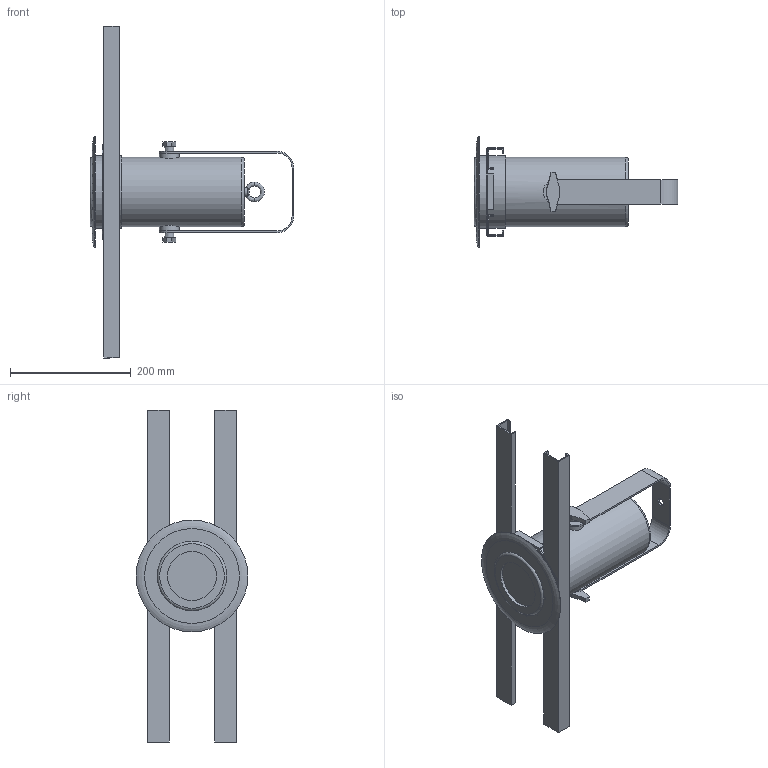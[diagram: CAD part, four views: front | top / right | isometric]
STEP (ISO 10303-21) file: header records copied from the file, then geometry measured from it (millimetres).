
FILE_DESCRIPTION(/* description */ (''),/* implementation_level */ '2;1');
FILE_NAME(/* name */ 'D:/dgooch/Documents/CADENG/PRO/Ovation H-55WW/0/3D/Ovation H-55WW_W_Install_Bracket_0.step',/* time_stamp */ '2019-11-13T10:13:38-05:00',/* author */ (''),/* organization */ (''),/* preprocessor_version */ 'ST-DEVELOPER v18',/* originating_system */ 'Autodesk Translation Framework v8.12.0.6',/* authorisation */ '');
FILE_SCHEMA (('AUTOMOTIVE_DESIGN { 1 0 10303 214 3 1 1 }'));
Length unit declared in the file: millimetre
Products named in the file (5): Ovation Mini Houselight; Bracket; Mian; Install_Bracket; Ring
Assembly tree (4 placements, depth 3):
  Ovation Mini Houselight
    Bracket
    Mian
      Install_Bracket
      Ring
Bounding box: 337.6 x 185.12 x 550 mm (x, y, z)
Volume: 2959832.3 mm3; surface area: 407897.2 mm2
Topology: 4 solids, 4 shells, 141 faces, 361 edges, 234 vertices
Faces by surface type: plane 100, cylinder 18, cone 12, bspline 6, torus 5
Full cylindrical faces by diameter (mm): 8.1 x2, 13 x1, 15.3 x1, 32.439 x2, 81 x1, 114.646 x1, 115 x1, 120 x1
Entity records: 6220 total; most frequent: CARTESIAN_POINT 2655, ORIENTED_EDGE 722, DIRECTION 702, EDGE_CURVE 361, LINE 244, VECTOR 244, VERTEX_POINT 234, AXIS2_PLACEMENT_3D 229
